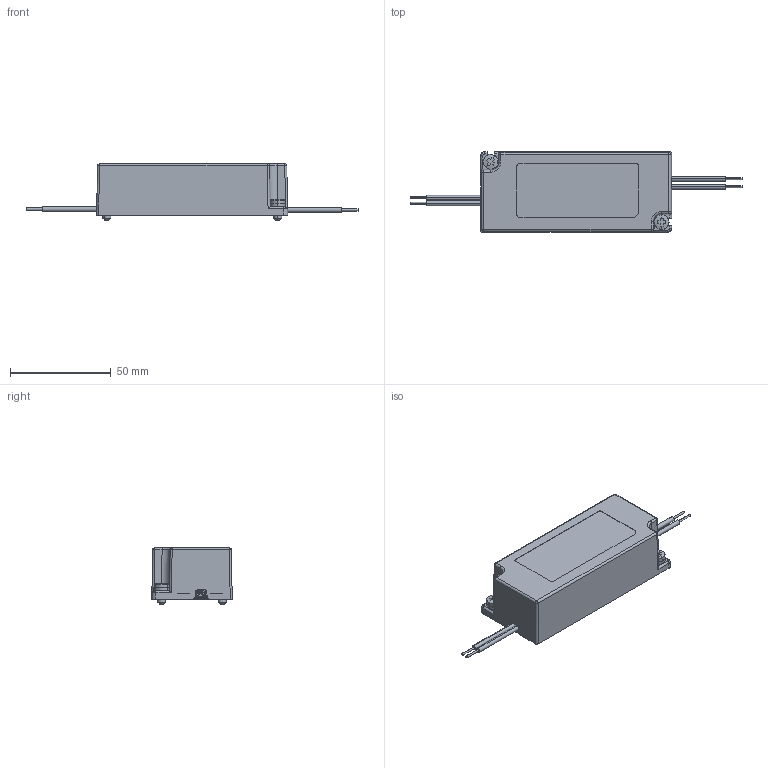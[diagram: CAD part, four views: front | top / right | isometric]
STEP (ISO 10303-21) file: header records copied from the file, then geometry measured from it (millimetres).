
FILE_DESCRIPTION (( 'STEP AP203' ), '1' );
FILE_NAME ('3D-huahao.STEP', '2012-06-25T09:41:33', ( 'hz' ), ( 'delta' ), 'SwSTEP 2.0', 'SolidWorks 2007', '' );
FILE_SCHEMA (( 'CONFIG_CONTROL_DESIGN' ));
Length unit declared in the file: millimetre
Products named in the file (12): REF-1; REF-2; screw----; 3D-huahao; cover-huahao; base-huahao; WIRE; pwb-huahao; 3105555800-M4; assembly-2; HS-0.6; mos
Assembly tree (15 placements, depth 3):
  3D-huahao
    REF-1
    WIRE  x4
    3105555800-M4  x2
    cover-huahao
    base-huahao
    pwb-huahao
    screw----
    REF-2
    assembly-2
      HS-0.6
      mos
Bounding box: 165.11 x 40 x 27.9 mm (x, y, z)
Volume: 26094.4 mm3; surface area: 38251.1 mm2
Topology: 14 solids, 14 shells, 633 faces, 1647 edges, 1072 vertices
Faces by surface type: plane 426, cylinder 157, torus 22, bspline 16, cone 6, sphere 6
Entity records: 19388 total; most frequent: CARTESIAN_POINT 3885, ORIENTED_EDGE 3058, DIRECTION 2773, EDGE_CURVE 1529, VECTOR 1171, LINE 1171, VERTEX_POINT 998, AXIS2_PLACEMENT_3D 801
